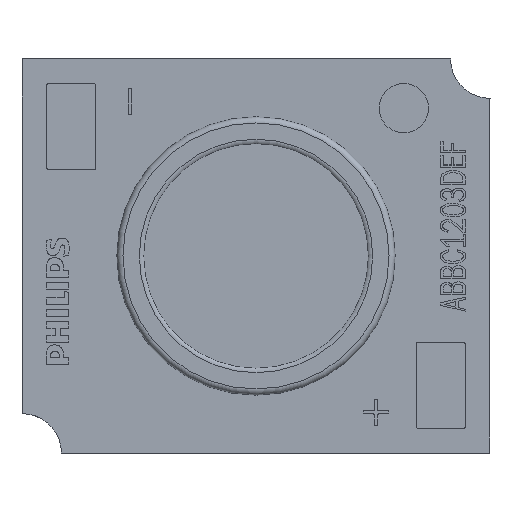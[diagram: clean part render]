
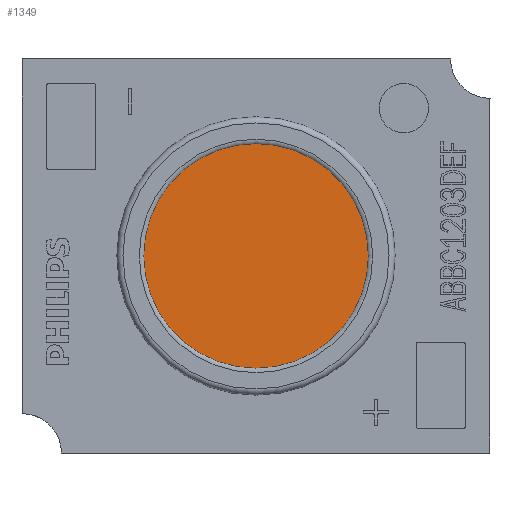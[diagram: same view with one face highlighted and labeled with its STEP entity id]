
A CAD part, top view. The second image highlights one B-rep face of the part: STEP entity #1349.
In plain terms, the highlighted planar face has unit normal (0, 0, 1).
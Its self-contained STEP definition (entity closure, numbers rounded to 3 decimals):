
#906=FACE_OUTER_BOUND('',#2276,.T.);
#1349=ADVANCED_FACE('',(#906),#1743,.T.);
#1743=PLANE('',#9408);
#2276=EDGE_LOOP('',(#4811));
#2331=CIRCLE('',#9407,4.563);
#4811=ORIENTED_EDGE('',*,*,#6895,.T.);
#5653=VERTEX_POINT('',#15076);
#6895=EDGE_CURVE('',#5653,#5653,#2331,.T.);
#9407=AXIS2_PLACEMENT_3D('',#15075,#11379,#11380);
#9408=AXIS2_PLACEMENT_3D('',#15077,#11381,#11382);
#11379=DIRECTION('',(0.,0.,1.));
#11380=DIRECTION('',(-1.,0.,0.));
#11381=DIRECTION('',(0.,0.,1.));
#11382=DIRECTION('',(-1.,0.,0.));
#15075=CARTESIAN_POINT('',(0.,0.,1.53));
#15076=CARTESIAN_POINT('',(-4.563,0.,1.53));
#15077=CARTESIAN_POINT('',(0.,0.,1.53));
